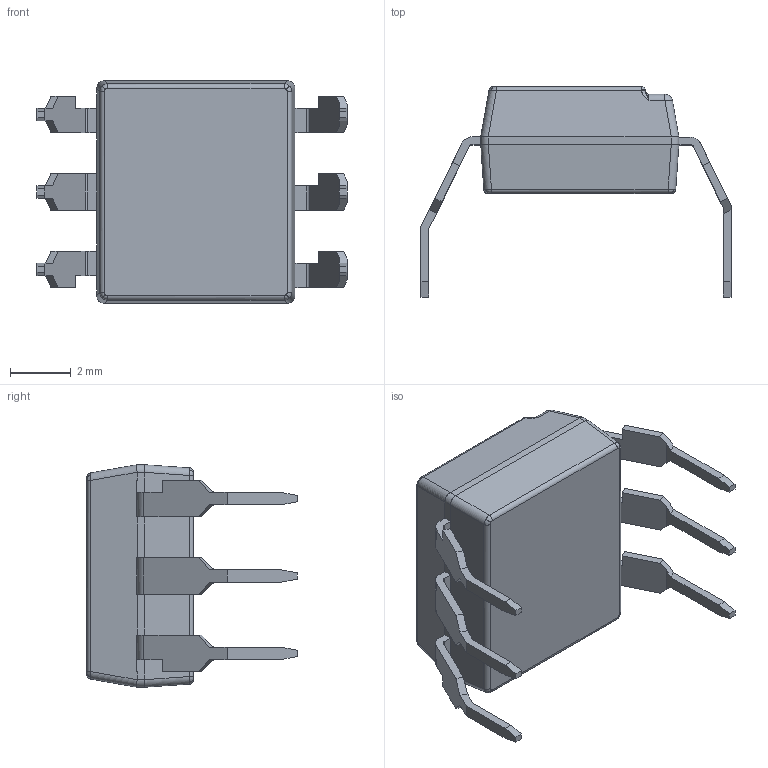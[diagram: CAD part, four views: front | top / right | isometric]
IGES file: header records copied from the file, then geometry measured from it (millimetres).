
Global section: file name: DIP6-M; native system: Autodesk Inventor 2016; preprocessor: unknown; author: ElvinLai; date: 20181029.104529; units: millimetre
Bounding box: 10.17 x 6.9 x 7.3 mm (x, y, z)
Surface area: 241.5 mm2 (no closed solid volume)
Topology: 0 solids, 0 shells, 185 faces, 1137 edges, 1136 vertices
Faces by surface type: bspline 143, revolution 42
